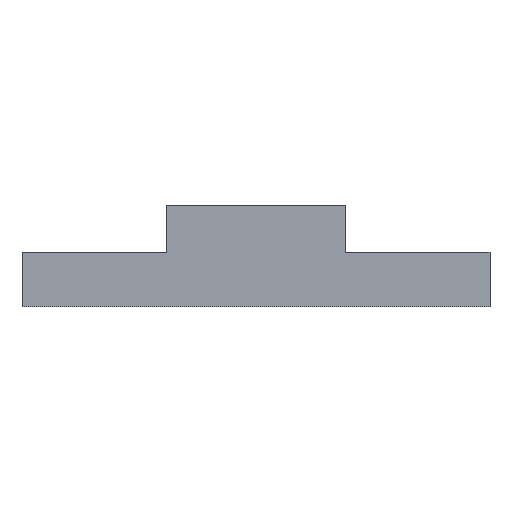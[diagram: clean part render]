
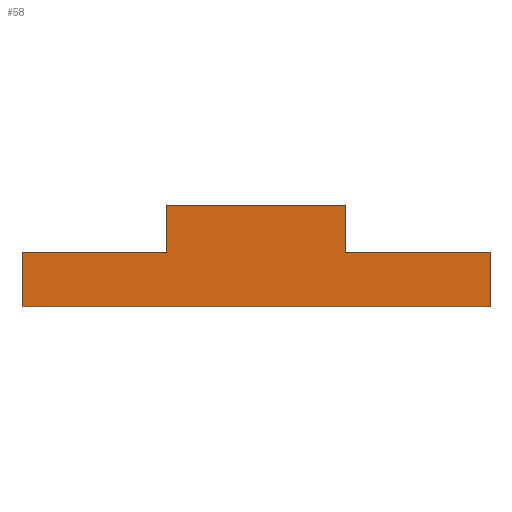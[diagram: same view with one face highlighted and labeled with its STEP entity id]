
A CAD part, front view. The second image highlights one B-rep face of the part: STEP entity #58.
In plain terms, the highlighted planar face has unit normal (0, -1, 0).
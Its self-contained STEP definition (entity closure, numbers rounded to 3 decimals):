
#58=ADVANCED_FACE('',(#211),#213,.T.);
#211=FACE_BOUND('',#212,.T.);
#212=EDGE_LOOP('',(#344,#345,#346,#347,#348,#349,#350,#351));
#213=PLANE('',#214);
#214=AXIS2_PLACEMENT_3D('',#215,#216,#217);
#215=CARTESIAN_POINT('',(-4.75,-4.75,4.));
#216=DIRECTION('',(0.,-1.,0.));
#217=DIRECTION('',(1.,0.,0.));
#344=ORIENTED_EDGE('',*,*,#424,.T.);
#345=ORIENTED_EDGE('',*,*,#425,.F.);
#346=ORIENTED_EDGE('',*,*,#426,.F.);
#347=ORIENTED_EDGE('',*,*,#427,.F.);
#348=ORIENTED_EDGE('',*,*,#428,.T.);
#349=ORIENTED_EDGE('',*,*,#429,.T.);
#350=ORIENTED_EDGE('',*,*,#430,.F.);
#351=ORIENTED_EDGE('',*,*,#431,.T.);
#424=EDGE_CURVE('',#464,#465,#466,.T.);
#425=EDGE_CURVE('',#467,#465,#468,.T.);
#426=EDGE_CURVE('',#469,#467,#470,.T.);
#427=EDGE_CURVE('',#471,#469,#472,.T.);
#428=EDGE_CURVE('',#471,#473,#474,.T.);
#429=EDGE_CURVE('',#473,#475,#476,.T.);
#430=EDGE_CURVE('',#477,#475,#478,.T.);
#431=EDGE_CURVE('',#477,#464,#479,.T.);
#464=VERTEX_POINT('',#532);
#465=VERTEX_POINT('',#533);
#466=LINE('',#534,#535);
#467=VERTEX_POINT('',#537);
#468=LINE('',#538,#539);
#469=VERTEX_POINT('',#541);
#470=LINE('',#542,#543);
#471=VERTEX_POINT('',#545);
#472=LINE('',#546,#547);
#473=VERTEX_POINT('',#549);
#474=LINE('',#550,#551);
#475=VERTEX_POINT('',#553);
#476=LINE('',#554,#555);
#477=VERTEX_POINT('',#557);
#478=LINE('',#558,#559);
#479=LINE('',#561,#562);
#532=CARTESIAN_POINT('',(4.75,-4.75,5.4));
#533=CARTESIAN_POINT('',(-4.75,-4.75,5.4));
#534=CARTESIAN_POINT('',(4.75,-4.75,5.4));
#535=VECTOR('',#536,1.);
#536=DIRECTION('',(-1.,0.,0.));
#537=CARTESIAN_POINT('',(-4.75,-4.75,2.9));
#538=CARTESIAN_POINT('',(-4.75,-4.75,2.9));
#539=VECTOR('',#540,1.);
#540=DIRECTION('',(0.,0.,1.));
#541=CARTESIAN_POINT('',(-12.4,-4.75,2.9));
#542=CARTESIAN_POINT('',(-12.4,-4.75,2.9));
#543=VECTOR('',#544,1.);
#544=DIRECTION('',(1.,0.,0.));
#545=CARTESIAN_POINT('',(-12.4,-4.75,0.));
#546=CARTESIAN_POINT('',(-12.4,-4.75,0.));
#547=VECTOR('',#548,1.);
#548=DIRECTION('',(0.,0.,1.));
#549=CARTESIAN_POINT('',(12.4,-4.75,0.));
#550=CARTESIAN_POINT('',(-12.4,-4.75,0.));
#551=VECTOR('',#552,1.);
#552=DIRECTION('',(1.,0.,0.));
#553=CARTESIAN_POINT('',(12.4,-4.75,2.9));
#554=CARTESIAN_POINT('',(12.4,-4.75,0.));
#555=VECTOR('',#556,1.);
#556=DIRECTION('',(0.,0.,1.));
#557=CARTESIAN_POINT('',(4.75,-4.75,2.9));
#558=CARTESIAN_POINT('',(4.75,-4.75,2.9));
#559=VECTOR('',#560,1.);
#560=DIRECTION('',(1.,0.,0.));
#561=CARTESIAN_POINT('',(4.75,-4.75,2.9));
#562=VECTOR('',#563,1.);
#563=DIRECTION('',(0.,0.,1.));
